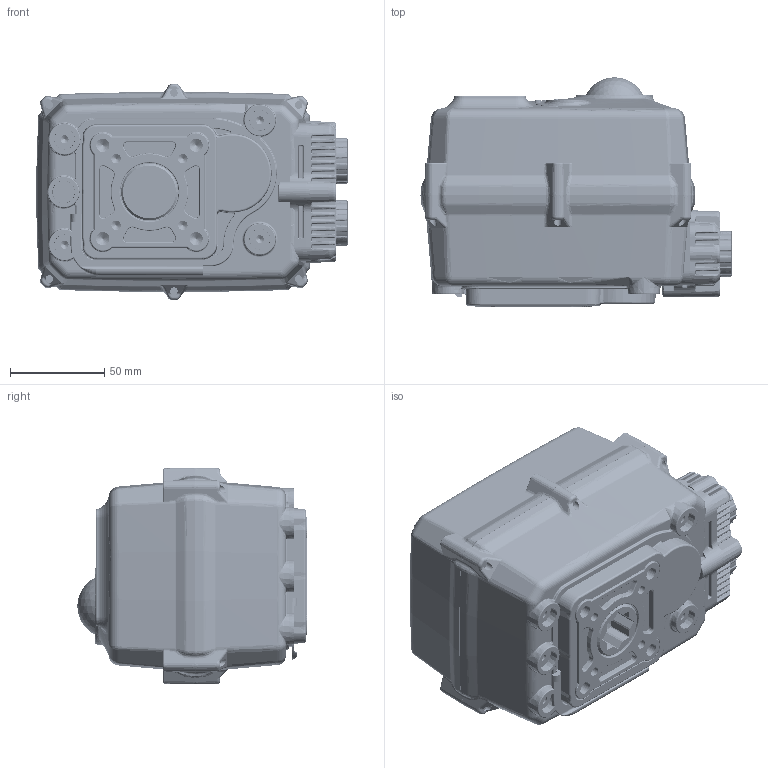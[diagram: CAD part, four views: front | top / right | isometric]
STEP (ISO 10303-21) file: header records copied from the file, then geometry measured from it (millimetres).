
FILE_DESCRIPTION (( 'STEP AP203' ), '1' );
FILE_NAME ('蚾饜极08﹜11-俋褲-拸敦.STEP', '2019-07-12T08:30:47', ( 'china' ), ( 'china' ), 'SwSTEP 2.0', 'SolidWorks 2018', '' );
FILE_SCHEMA (( 'CONFIG_CONTROL_DESIGN' ));
Length unit declared in the file: millimetre
Products named in the file (19): 手动轴铜嵌件-TCR0510; TCR05-执行器下盖-拔模斜度5度-圆弧形螺钉孔-小锣柱方案; 珘儒醱啣; 输出轴及其齿轮-内八方; 售忒殤-呿蹋; 蚾饜极08﹜11-俋褲-拸敦; 接线盒盖-双出线盖 145x110-定型; 忒雄粣蚐猾18x10x4; 硌尨齪; 噩え俋褲-145X110; 蚾饜极-硌尨攫釱-B01; 硌尨齪傍え; 噩え俋褲囀傍-145X110; 臏菁釱-B02; 硌尨攫釱; 蚾饜极1-弝噩え; 忒雄粣-TCR05; M2.6X12蹟隊; TCR06-硒俴ん奻裔-拸敦
Assembly tree (18 placements, depth 3):
  蚾饜极08﹜11-俋褲-拸敦
    蚾饜极-硌尨攫釱-B01
      硌尨齪
      硌尨齪傍え
      硌尨攫釱
      M2.6X12蹟隊
    臏菁釱-B02
    忒雄粣-TCR05
    手动轴铜嵌件-TCR0510
    珘儒醱啣
    售忒殤-呿蹋
    接线盒盖-双出线盖 145x110-定型
    忒雄粣蚐猾18x10x4
    蚾饜极1-弝噩え
      噩え俋褲-145X110
      噩え俋褲囀傍-145X110
    TCR06-硒俴ん奻裔-拸敦
    TCR05-执行器下盖-拔模斜度5度-圆弧形螺钉孔-小锣柱方案
    输出轴及其齿轮-内八方
Bounding box: 164.89 x 121.62 x 115 mm (x, y, z)
Volume: 413030.7 mm3; surface area: 252185.2 mm2
Topology: 17 solids, 18 shells, 5655 faces, 14323 edges, 8663 vertices
Faces by surface type: bspline 1571, cylinder 1500, plane 1235, cone 698, torus 463, sphere 188
Entity records: 207514 total; most frequent: CARTESIAN_POINT 82209, ORIENTED_EDGE 28266, DIRECTION 23304, EDGE_CURVE 14133, AXIS2_PLACEMENT_3D 9381, VERTEX_POINT 8659, EDGE_LOOP 5874, ADVANCED_FACE 5655
